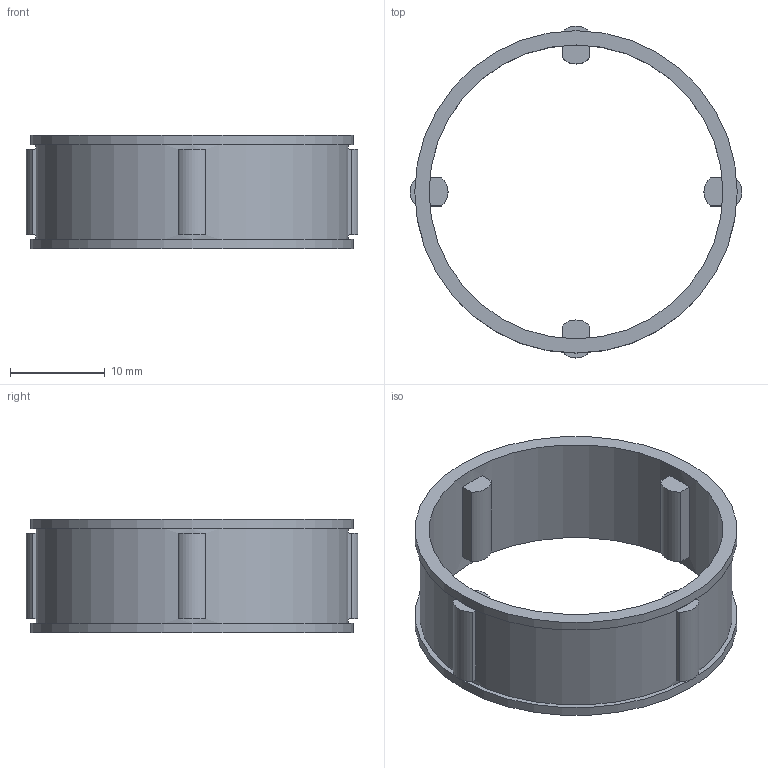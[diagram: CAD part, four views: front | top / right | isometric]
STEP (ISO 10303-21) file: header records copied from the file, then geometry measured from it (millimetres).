
FILE_DESCRIPTION(/* description */ (''),/* implementation_level */ '2;1');
FILE_NAME(/* name */ '300447 FE 435 M.stp',/* time_stamp */ '2016-11-03T13:33:54+01:00',/* author */ (''),/* organization */ (''),/* preprocessor_version */ 'ST-DEVELOPER v15',/* originating_system */ 'SIEMENS PLM Software NX 8.5',/* authorisation */ '');
FILE_SCHEMA (('CONFIG_CONTROL_DESIGN'));
Length unit declared in the file: millimetre
Products named in the file (1): ATE0000081_01
Bounding box: 35 x 35 x 12 mm (x, y, z)
Volume: 1587.1 mm3; surface area: 3040.5 mm2
Topology: 1 solids, 1 shells, 48 faces, 114 edges, 76 vertices
Faces by surface type: plane 36, cylinder 12
Full cylindrical faces by diameter (mm): 31 x1, 33 x1, 34 x2
Entity records: 1420 total; most frequent: DIRECTION 242, CARTESIAN_POINT 225, ORIENTED_EDGE 208, EDGE_CURVE 104, AXIS2_PLACEMENT_3D 89, VERTEX_POINT 72, LINE 64, VECTOR 64
